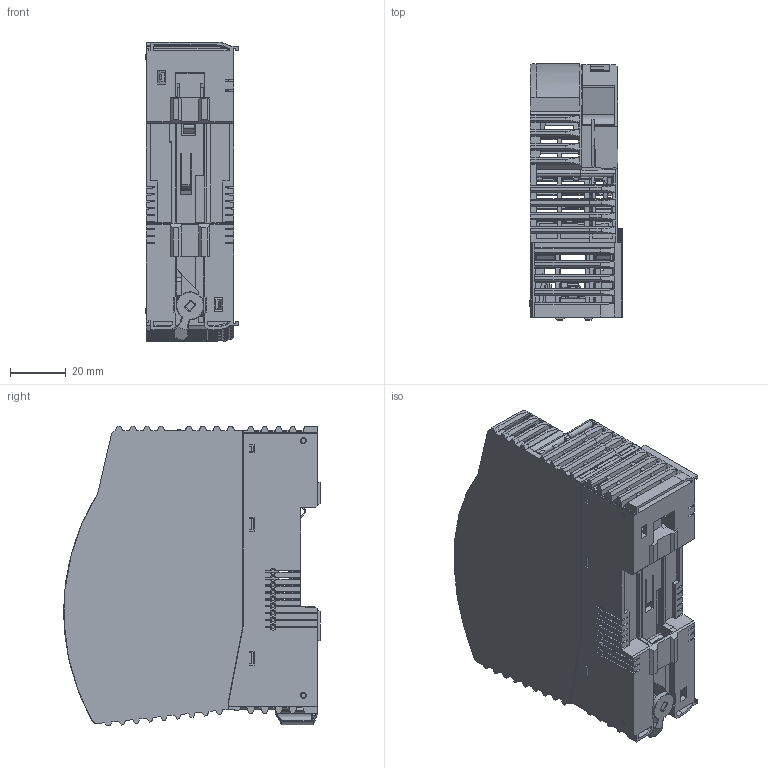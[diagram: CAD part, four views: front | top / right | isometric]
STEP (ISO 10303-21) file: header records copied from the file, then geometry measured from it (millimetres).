
FILE_DESCRIPTION((''),'2;1');
FILE_NAME('2036522','2024-04-30T12:18:05',('l.merz'),(''),'CREO PARAMETRIC BY PTC INC, 2019292','CREO PARAMETRIC BY PTC INC, 2019292','');
FILE_SCHEMA(('AUTOMOTIVE_DESIGN { 1 0 10303 214 1 1 1 1 }'));
Length unit declared in the file: millimetre
Products named in the file (1): 2036522
Bounding box: 33.05 x 91.89 x 107.39 mm (x, y, z)
Volume: 62437.8 mm3; surface area: 87455.4 mm2
Topology: 1 solids, 1 shells, 4949 faces, 14452 edges, 9442 vertices
Faces by surface type: plane 3559, cylinder 626, extrusion 476, cone 163, torus 75, bspline 30, sphere 20
Entity records: 257644 total; most frequent: CARTESIAN_POINT 49888, ORIENTED_EDGE 28858, DIRECTION 22444, PRESENTATION_STYLE_ASSIGNMENT 19856, STYLED_ITEM 14907, CURVE_STYLE 14906, EDGE_CURVE 14429, VECTOR 11340
